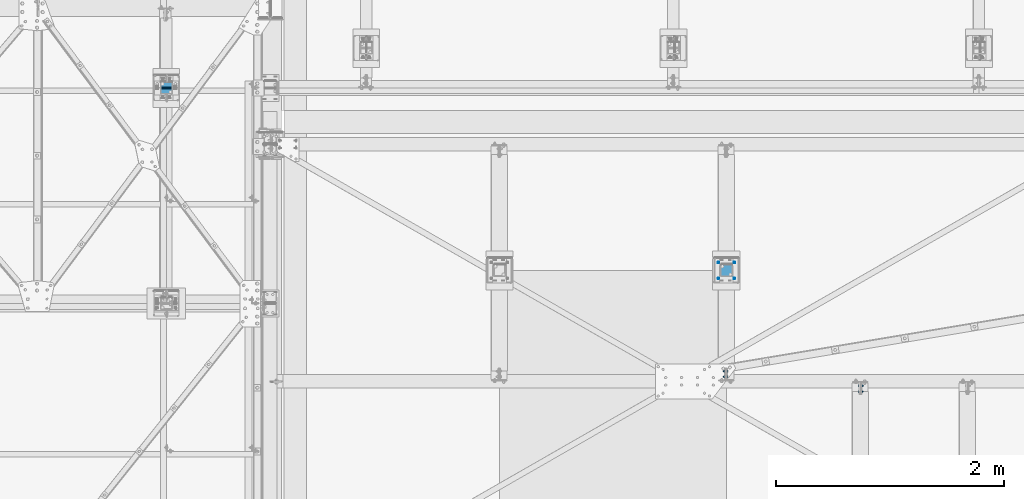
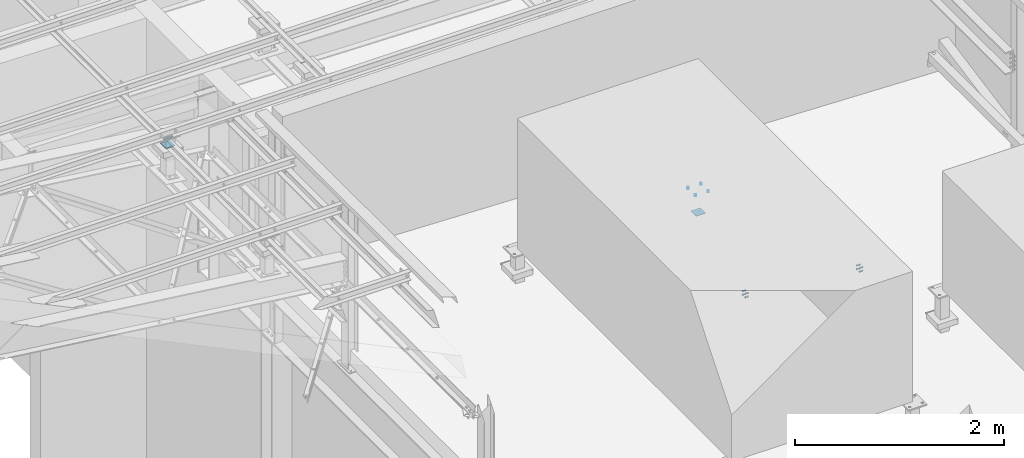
# One storey, part 385 of 3134: 6 mechanical fasteners, 4 elements without a shape of their own.
"""IFC2X3 building model written with IfcOpenShell, lengths in millimetres."""

from ifc_helpers import new_model, si_unit, frame, origin_with_axes, place, context, subcontext, project, spatial, faceted_brep, source, transform, mapped, material, type_object, element, aggregate, save


model = new_model("IFC2X3")

# Units and contexts
model_context = context("Model", 3, precision=1e-05, world=origin_with_axes())
body_context = subcontext(model_context, "Body", "Model", "MODEL_VIEW")
ifc_project = project(units=[si_unit("LENGTHUNIT", "METRE", prefix="MILLI"), si_unit("AREAUNIT", "SQUARE_METRE"), si_unit("VOLUMEUNIT", "CUBIC_METRE"), si_unit("MASSUNIT", "GRAM", prefix="KILO"), si_unit("TIMEUNIT", "SECOND"), si_unit("PLANEANGLEUNIT", "RADIAN"), si_unit("SOLIDANGLEUNIT", "STERADIAN"), si_unit("THERMODYNAMICTEMPERATUREUNIT", "DEGREE_CELSIUS"), si_unit("LUMINOUSINTENSITYUNIT", "LUMEN")], contexts=[model_context])

# Site, building, storey
site_placement = place(None, origin_with_axes())
site = spatial("IfcSite", under=ifc_project, at=site_placement, CompositionType="ELEMENT")
building_placement = place(site_placement, origin_with_axes())
building = spatial("IfcBuilding", under=site, at=building_placement, Name="Undefined", CompositionType="ELEMENT")
storey_placement = place(building_placement, origin_with_axes())
storey = spatial("IfcBuildingStorey", under=building, at=storey_placement, Name="Undefined", CompositionType="ELEMENT", Elevation=0.0)

# Assembly, mechanical fastener
assembly_1_placement = place(storey_placement, origin_with_axes())
assembly_1 = element("IfcElementAssembly", 1, at=assembly_1_placement, inside=storey, AssemblyPlace="NOTDEFINED", PredefinedType="RIGID_FRAME")
ifc_material_1 = material(Name="8.8")
mechanical_fastener_type = type_object("IfcMechanicalFastenerType", Name="Bolt assembly")
shared_shape_1 = source(origin_with_axes(), body_context, "Body", "Brep", [
    faceted_brep([(9.0, -50.0, 0.0), (7.79422863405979, -50.0, 4.50000000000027), (4.49999999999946, -50.0, 7.79422863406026), (-9.3270238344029e-13, -50.0, 9.0), (-4.50000000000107, -50.0, 7.79422863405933), (-7.79422863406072, -50.0, 4.49999999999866), (-9.0, -50.0, -1.86540476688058e-12), (-7.79422863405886, -50.0, -4.50000000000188), (-4.49999999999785, -50.0, -7.79422863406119), (2.78811514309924e-12, -50.0, -9.0), (4.50000000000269, -50.0, -7.7942286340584), (7.79422863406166, -50.0, -4.49999999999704), (7.79422863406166, 50.1, -4.49999999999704), (4.50000000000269, 50.1, -7.7942286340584), (2.78811514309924e-12, 50.1, -9.0), (-4.49999999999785, 50.1, -7.79422863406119), (-7.79422863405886, 50.1, -4.50000000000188), (-9.0, 50.1, -1.86540476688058e-12), (-7.79422863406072, 50.1, 4.49999999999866), (-4.50000000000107, 50.1, 7.79422863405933), (-9.3270238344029e-13, 50.1, 9.0), (4.49999999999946, 50.1, 7.79422863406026), (7.79422863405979, 50.1, 4.50000000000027), (9.0, 50.1, 0.0)], [[[0, 1, 2, 3, 4, 5, 6, 7, 8, 9, 10, 11]], [[12, 13, 14, 15, 16, 17, 18, 19, 20, 21, 22, 23]], [[0, 23, 22, 1]], [[1, 22, 21, 2]], [[2, 21, 20, 3]], [[3, 20, 19, 4]], [[4, 19, 18, 5]], [[5, 18, 17, 6]], [[6, 17, 16, 7]], [[7, 16, 15, 8]], [[8, 15, 14, 9]], [[9, 14, 13, 10]], [[10, 13, 12, 11]], [[11, 12, 23, 0]]]),
])
mechanical_fastener_1_placement = place(assembly_1_placement, frame((70902.0, 26545.0, 5830.0), z_axis=(0.0, 1.0, 0.0), x_axis=(0.0, 0.0, 1.0)))
mechanical_fastener_1 = element("IfcMechanicalFastener", 2, at=mechanical_fastener_1_placement, type_object=mechanical_fastener_type, material=ifc_material_1, Name="Bolt assembly", NominalDiameter=16.0, NominalLength=100.0, context=body_context, shape_type="MappedRepresentation", body=[
    mapped(shared_shape_1, transform((0.0, 0.0, 0.0))),
])

assembly_2_placement = place(storey_placement, origin_with_axes())
assembly_2 = element("IfcElementAssembly", 3, at=assembly_2_placement, inside=storey, AssemblyPlace="NOTDEFINED", PredefinedType="RIGID_FRAME")
ifc_material_2 = material(Name="6.8")
shared_shape_2 = source(origin_with_axes(), body_context, "Body", "Brep", [
    faceted_brep([(51.5, 1.36424205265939e-12, 50.0), (51.3858192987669, 1.36424205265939e-12, 50.5740251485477), (51.0606601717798, 1.36424205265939e-12, 51.0606601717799), (50.5740251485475, 1.36424205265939e-12, 51.385819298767), (-50.0000000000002, 1.36424205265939e-12, 51.5), (-50.7500000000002, 1.36424205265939e-12, 51.2990381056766), (-51.2990381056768, 1.36424205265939e-12, 50.7499999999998), (-51.5, 1.36424205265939e-12, 49.9999999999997), (-51.5, 1.36424205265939e-12, -50.0000000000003), (-51.2990381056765, 1.36424205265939e-12, -50.7500000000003), (-50.7499999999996, 1.36424205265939e-12, -51.2990381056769), (-49.9999999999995, 1.36424205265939e-12, -51.5), (50.0000000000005, 1.36424205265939e-12, -51.5), (50.7500000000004, 1.36424205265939e-12, -51.2990381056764), (51.2990381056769, 1.36424205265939e-12, -50.7499999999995), (51.5, 1.36424205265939e-12, -49.9999999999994), (51.5, 5.10000000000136, -49.9999999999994), (51.2990381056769, 5.10000000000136, -50.7499999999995), (50.7500000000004, 5.10000000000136, -51.2990381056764), (50.0000000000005, 5.10000000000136, -51.5), (-49.9999999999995, 5.10000000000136, -51.5), (-50.7499999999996, 5.10000000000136, -51.2990381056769), (-51.2990381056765, 5.10000000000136, -50.7500000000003), (-51.5, 5.10000000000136, -50.0000000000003), (-51.5, 5.10000000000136, 49.9999999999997), (-51.2990381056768, 5.10000000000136, 50.7499999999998), (-50.7500000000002, 5.10000000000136, 51.2990381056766), (-50.0000000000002, 5.10000000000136, 51.5), (50.5740251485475, 5.10000000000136, 51.385819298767), (51.0606601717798, 5.10000000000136, 51.0606601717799), (51.3858192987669, 5.10000000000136, 50.5740251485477), (51.5, 5.10000000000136, 50.0)], [[[0, 1, 2, 3, 4, 5, 6, 7, 8, 9, 10, 11, 12, 13, 14, 15]], [[16, 17, 18, 19, 20, 21, 22, 23, 24, 25, 26, 27, 28, 29, 30, 31]], [[0, 31, 30, 1]], [[1, 30, 29, 2]], [[2, 29, 28, 3]], [[3, 28, 27, 4]], [[4, 27, 26, 5]], [[5, 26, 25, 6]], [[6, 25, 24, 7]], [[7, 24, 23, 8]], [[8, 23, 22, 9]], [[9, 22, 21, 10]], [[10, 21, 20, 11]], [[11, 20, 19, 12]], [[12, 19, 18, 13]], [[13, 18, 17, 14]], [[14, 17, 16, 15]], [[15, 16, 31, 0]]]),
])
mechanical_fastener_2_placement = place(assembly_2_placement, frame((75824.0, 24940.0, 4212.39), z_axis=(0.0, -1.0, 0.0), x_axis=(-1.0, 0.0, 0.0)))
mechanical_fastener_2 = element("IfcMechanicalFastener", 4, at=mechanical_fastener_2_placement, type_object=mechanical_fastener_type, material=ifc_material_2, Name="Bolt assembly", NominalDiameter=10.0, NominalLength=5.0, context=body_context, shape_type="MappedRepresentation", body=[
    mapped(shared_shape_2, transform((0.0, 0.0, 0.0))),
])

# Mechanical fastener
mechanical_fastener_3_placement = place(assembly_1_placement, frame((70902.0, 26545.0, 5750.0), z_axis=(0.0, -1.0, 0.0), x_axis=(-1.0, 0.0, 0.0)))
mechanical_fastener_3 = element("IfcMechanicalFastener", 5, at=mechanical_fastener_3_placement, type_object=mechanical_fastener_type, material=ifc_material_2, Name="Bolt assembly", NominalDiameter=10.0, NominalLength=5.0, context=body_context, shape_type="MappedRepresentation", body=[
    mapped(shared_shape_2, transform((0.0, 0.0, 0.0))),
])

aggregate(assembly_1, [mechanical_fastener_1, mechanical_fastener_3])

# Assembly, mechanical fastener
assembly_3_placement = place(storey_placement, origin_with_axes())
assembly_3 = element("IfcElementAssembly", 6, at=assembly_3_placement, inside=storey, AssemblyPlace="NOTDEFINED", PredefinedType="RIGID_FRAME")
shared_shape_3 = source(origin_with_axes(), body_context, "Body", "Brep", [
    faceted_brep([(10.9696551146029, -19.2575524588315, 0.0), (5.48482755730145, -19.2575524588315, 9.5), (-5.48482755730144, -19.2575524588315, 9.5), (-10.9696551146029, -19.2575524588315, 1.34339530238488e-15), (-5.48482755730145, -19.2575524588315, -9.5), (5.48482755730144, -19.2575524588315, -9.50000000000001), (5.48482755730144, -11.2575524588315, -9.50000000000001), (-5.48482755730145, -11.2575524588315, -9.5), (-10.9696551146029, -11.2575524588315, 1.34339530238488e-15), (-5.48482755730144, -11.2575524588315, 9.5), (5.48482755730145, -11.2575524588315, 9.5), (10.9696551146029, -11.2575524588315, 0.0), (6.0, -11.2575524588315, 0.0), (5.19615242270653, -11.2575524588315, 3.00000000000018), (2.99999999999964, -11.2575524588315, 5.19615242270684), (-6.21801588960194e-13, -11.2575524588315, 6.0), (-3.00000000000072, -11.2575524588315, 5.19615242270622), (-5.19615242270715, -11.2575524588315, 2.9999999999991), (-6.0, -11.2575524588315, -1.24360317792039e-12), (-5.19615242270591, -11.2575524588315, -3.00000000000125), (-2.99999999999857, -11.2575524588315, -5.19615242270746), (1.85874342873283e-12, -11.2575524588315, -6.0), (3.00000000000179, -11.2575524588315, -5.1961524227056), (5.19615242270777, -11.2575524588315, -2.99999999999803), (5.19615242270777, 23.7424475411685, -2.99999999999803), (3.00000000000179, 23.7424475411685, -5.1961524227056), (1.85874342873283e-12, 23.7424475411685, -6.0), (-2.99999999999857, 23.7424475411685, -5.19615242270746), (-5.19615242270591, 23.7424475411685, -3.00000000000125), (-6.0, 23.7424475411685, -1.24360317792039e-12), (-5.19615242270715, 23.7424475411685, 2.9999999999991), (-3.00000000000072, 23.7424475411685, 5.19615242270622), (-6.21801588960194e-13, 23.7424475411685, 6.0), (2.99999999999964, 23.7424475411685, 5.19615242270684), (5.19615242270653, 23.7424475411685, 3.00000000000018), (6.0, 23.7424475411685, 0.0), (10.9696551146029, 6.25018760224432, 0.0), (5.48482755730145, 6.25018760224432, 9.5), (-5.48482755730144, 6.25018760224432, 9.5), (-10.9696551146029, 6.25018760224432, 1.34339530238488e-15), (-5.48482755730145, 6.25018760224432, -9.5), (5.48482755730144, 6.25018760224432, -9.50000000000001), (5.48482755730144, 16.2501876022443, -9.50000000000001), (-5.48482755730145, 16.2501876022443, -9.5), (-10.9696551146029, 16.2501876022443, 1.34339530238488e-15), (-5.48482755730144, 16.2501876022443, 9.5), (5.48482755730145, 16.2501876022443, 9.5), (10.9696551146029, 16.2501876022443, 0.0)], [[[0, 1, 2, 3, 4, 5]], [[6, 7, 8, 9, 10, 11]], [[0, 11, 10, 1]], [[1, 10, 9, 2]], [[2, 9, 8, 3]], [[3, 8, 7, 4]], [[4, 7, 6, 5]], [[5, 6, 11, 0]], [[12, 13, 14, 15, 16, 17, 18, 19, 20, 21, 22, 23]], [[24, 25, 26, 27, 28, 29, 30, 31, 32, 33, 34, 35]], [[12, 35, 34, 13]], [[13, 34, 33, 14]], [[14, 33, 32, 15]], [[15, 32, 31, 16]], [[16, 31, 30, 17]], [[17, 30, 29, 18]], [[18, 29, 28, 19]], [[19, 28, 27, 20]], [[20, 27, 26, 21]], [[21, 26, 25, 22]], [[22, 25, 24, 23]], [[23, 24, 35, 12]], [[36, 37, 38, 39, 40, 41]], [[42, 43, 44, 45, 46, 47]], [[36, 47, 46, 37]], [[37, 46, 45, 38]], [[38, 45, 44, 39]], [[39, 44, 43, 40]], [[40, 43, 42, 41]], [[41, 42, 47, 36]]]),
    faceted_brep([(7.0, -11.1575524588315, 0.0), (6.06217782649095, -11.1575524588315, 3.50000000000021), (3.49999999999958, -11.1575524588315, 6.06217782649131), (-7.25435187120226e-13, -11.1575524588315, 7.0), (-3.50000000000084, -11.1575524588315, 6.06217782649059), (-6.06217782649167, -11.1575524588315, 3.49999999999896), (-7.0, -11.1575524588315, -1.45087037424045e-12), (-6.06217782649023, -11.1575524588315, -3.50000000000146), (-3.49999999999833, -11.1575524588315, -6.06217782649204), (2.1685340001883e-12, -11.1575524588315, -7.0), (3.50000000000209, -11.1575524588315, -6.06217782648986), (6.0621778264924, -11.1575524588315, -3.4999999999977), (6.0621778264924, -5.15755245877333, -3.4999999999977), (3.50000000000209, -5.15755245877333, -6.06217782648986), (2.1685340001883e-12, -5.15755245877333, -7.0), (-3.49999999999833, -5.15755245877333, -6.06217782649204), (-6.06217782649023, -5.15755245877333, -3.50000000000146), (-7.0, -5.15755245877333, -1.45087037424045e-12), (-6.06217782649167, -5.15755245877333, 3.49999999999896), (-3.50000000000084, -5.15755245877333, 6.06217782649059), (-7.25435187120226e-13, -5.15755245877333, 7.0), (3.49999999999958, -5.15755245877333, 6.06217782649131), (6.06217782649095, -5.15755245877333, 3.50000000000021), (7.0, -5.15755245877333, 0.0), (7.0, 0.150187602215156, 0.0), (6.06217782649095, 0.150187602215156, 3.50000000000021), (3.49999999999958, 0.150187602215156, 6.06217782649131), (-7.25435187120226e-13, 0.150187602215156, 7.0), (-3.50000000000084, 0.150187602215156, 6.06217782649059), (-6.06217782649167, 0.150187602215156, 3.49999999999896), (-7.0, 0.150187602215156, -1.45087037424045e-12), (-6.06217782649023, 0.150187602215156, -3.50000000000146), (-3.49999999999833, 0.150187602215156, -6.06217782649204), (2.1685340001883e-12, 0.150187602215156, -7.0), (3.50000000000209, 0.150187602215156, -6.06217782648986), (6.0621778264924, 0.150187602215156, -3.4999999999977), (6.0621778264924, 6.25018760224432, -3.4999999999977), (3.50000000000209, 6.25018760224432, -6.06217782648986), (2.1685340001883e-12, 6.25018760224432, -7.0), (-3.49999999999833, 6.25018760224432, -6.06217782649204), (-6.06217782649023, 6.25018760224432, -3.50000000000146), (-7.0, 6.25018760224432, -1.45087037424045e-12), (-6.06217782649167, 6.25018760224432, 3.49999999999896), (-3.50000000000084, 6.25018760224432, 6.06217782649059), (-7.25435187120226e-13, 6.25018760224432, 7.0), (3.49999999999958, 6.25018760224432, 6.06217782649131), (6.06217782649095, 6.25018760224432, 3.50000000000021), (7.0, 6.25018760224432, 0.0), (7.0, -5.25082704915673, 0.0), (6.06217782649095, -5.25082704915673, 3.50000000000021), (3.49999999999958, -5.25082704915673, 6.06217782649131), (-7.25435187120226e-13, -5.25082704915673, 7.0), (-3.50000000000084, -5.25082704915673, 6.06217782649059), (-6.06217782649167, -5.25082704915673, 3.49999999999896), (-7.0, -5.25082704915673, -1.45087037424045e-12), (-6.06217782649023, -5.25082704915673, -3.50000000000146), (-3.49999999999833, -5.25082704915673, -6.06217782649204), (2.1685340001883e-12, -5.25082704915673, -7.0), (3.50000000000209, -5.25082704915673, -6.06217782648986), (6.0621778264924, -5.25082704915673, -3.4999999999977), (6.0621778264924, 0.249172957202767, -3.4999999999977), (3.50000000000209, 0.249172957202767, -6.06217782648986), (2.1685340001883e-12, 0.249172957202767, -7.0), (-3.49999999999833, 0.249172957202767, -6.06217782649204), (-6.06217782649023, 0.249172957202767, -3.50000000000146), (-7.0, 0.249172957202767, -1.45087037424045e-12), (-6.06217782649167, 0.249172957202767, 3.49999999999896), (-3.50000000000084, 0.249172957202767, 6.06217782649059), (-7.25435187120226e-13, 0.249172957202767, 7.0), (3.49999999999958, 0.249172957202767, 6.06217782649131), (6.06217782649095, 0.249172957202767, 3.50000000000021), (7.0, 0.249172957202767, 0.0)], [[[0, 1, 2, 3, 4, 5, 6, 7, 8, 9, 10, 11]], [[12, 13, 14, 15, 16, 17, 18, 19, 20, 21, 22, 23]], [[0, 23, 22, 1]], [[1, 22, 21, 2]], [[2, 21, 20, 3]], [[3, 20, 19, 4]], [[4, 19, 18, 5]], [[5, 18, 17, 6]], [[6, 17, 16, 7]], [[7, 16, 15, 8]], [[8, 15, 14, 9]], [[9, 14, 13, 10]], [[10, 13, 12, 11]], [[11, 12, 23, 0]], [[24, 25, 26, 27, 28, 29, 30, 31, 32, 33, 34, 35]], [[36, 37, 38, 39, 40, 41, 42, 43, 44, 45, 46, 47]], [[24, 47, 46, 25]], [[25, 46, 45, 26]], [[26, 45, 44, 27]], [[27, 44, 43, 28]], [[28, 43, 42, 29]], [[29, 42, 41, 30]], [[30, 41, 40, 31]], [[31, 40, 39, 32]], [[32, 39, 38, 33]], [[33, 38, 37, 34]], [[34, 37, 36, 35]], [[35, 36, 47, 24]], [[48, 49, 50, 51, 52, 53, 54, 55, 56, 57, 58, 59]], [[60, 61, 62, 63, 64, 65, 66, 67, 68, 69, 70, 71]], [[48, 71, 70, 49]], [[49, 70, 69, 50]], [[50, 69, 68, 51]], [[51, 68, 67, 52]], [[52, 67, 66, 53]], [[53, 66, 65, 54]], [[54, 65, 64, 55]], [[55, 64, 63, 56]], [[56, 63, 62, 57]], [[57, 62, 61, 58]], [[58, 61, 60, 59]], [[59, 60, 71, 48]]]),
])
mechanical_fastener_4_placement = place(assembly_3_placement, frame((77004.060807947, 23926.66, 3772.66212573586), z_axis=(0.0309396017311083, 0.0, 0.999521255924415), x_axis=(0.0, -1.0, 0.0)))
mechanical_fastener_4 = element("IfcMechanicalFastener", 7, at=mechanical_fastener_4_placement, type_object=mechanical_fastener_type, material=ifc_material_1, Name="Bolt assembly", NominalDiameter=12.0, NominalLength=35.0, context=body_context, shape_type="MappedRepresentation", body=[
    mapped(shared_shape_3, transform((0.0, 0.0, -21.0))),
    mapped(shared_shape_3, transform((50.0, -1.01863406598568e-10, -20.9999999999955))),
    mapped(shared_shape_3, transform((0.0, 0.0, 21.0))),
    mapped(shared_shape_3, transform((50.0, 1.30967237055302e-10, 20.9999999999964))),
])
aggregate(assembly_3, [mechanical_fastener_4])

assembly_4_placement = place(storey_placement, origin_with_axes())
assembly_4 = element("IfcElementAssembly", 8, at=assembly_4_placement, inside=storey, AssemblyPlace="NOTDEFINED", PredefinedType="RIGID_FRAME")
shared_shape_4 = source(origin_with_axes(), body_context, "Body", "Brep", [
    faceted_brep([(10.9696551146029, -14.250187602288, 0.0), (5.48482755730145, -14.250187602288, 9.5), (-5.48482755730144, -14.250187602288, 9.5), (-10.9696551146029, -14.250187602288, 1.34339530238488e-15), (-5.48482755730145, -14.250187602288, -9.5), (5.48482755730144, -14.250187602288, -9.50000000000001), (5.48482755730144, -6.25018760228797, -9.50000000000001), (-5.48482755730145, -6.25018760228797, -9.5), (-10.9696551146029, -6.25018760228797, 1.34339530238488e-15), (-5.48482755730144, -6.25018760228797, 9.5), (5.48482755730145, -6.25018760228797, 9.5), (10.9696551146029, -6.25018760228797, 0.0), (6.0, -6.25018760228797, 0.0), (5.19615242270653, -6.25018760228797, 3.00000000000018), (2.99999999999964, -6.25018760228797, 5.19615242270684), (-6.21801588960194e-13, -6.25018760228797, 6.0), (-3.00000000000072, -6.25018760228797, 5.19615242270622), (-5.19615242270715, -6.25018760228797, 2.9999999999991), (-6.0, -6.25018760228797, -1.24360317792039e-12), (-5.19615242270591, -6.25018760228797, -3.00000000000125), (-2.99999999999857, -6.25018760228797, -5.19615242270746), (1.85874342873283e-12, -6.25018760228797, -6.0), (3.00000000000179, -6.25018760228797, -5.1961524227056), (5.19615242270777, -6.25018760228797, -2.99999999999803), (5.19615242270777, 28.749812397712, -2.99999999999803), (3.00000000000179, 28.749812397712, -5.1961524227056), (1.85874342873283e-12, 28.749812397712, -6.0), (-2.99999999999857, 28.749812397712, -5.19615242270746), (-5.19615242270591, 28.749812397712, -3.00000000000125), (-6.0, 28.749812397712, -1.24360317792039e-12), (-5.19615242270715, 28.749812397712, 2.9999999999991), (-3.00000000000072, 28.749812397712, 5.19615242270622), (-6.21801588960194e-13, 28.749812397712, 6.0), (2.99999999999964, 28.749812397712, 5.19615242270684), (5.19615242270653, 28.749812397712, 3.00000000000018), (6.0, 28.749812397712, 0.0), (10.9696551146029, 11.2575524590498, 0.0), (5.48482755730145, 11.2575524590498, 9.5), (-5.48482755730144, 11.2575524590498, 9.5), (-10.9696551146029, 11.2575524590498, 1.34339530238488e-15), (-5.48482755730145, 11.2575524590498, -9.5), (5.48482755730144, 11.2575524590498, -9.50000000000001), (5.48482755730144, 21.2575524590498, -9.50000000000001), (-5.48482755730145, 21.2575524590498, -9.5), (-10.9696551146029, 21.2575524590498, 1.34339530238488e-15), (-5.48482755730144, 21.2575524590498, 9.5), (5.48482755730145, 21.2575524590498, 9.5), (10.9696551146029, 21.2575524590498, 0.0)], [[[0, 1, 2, 3, 4, 5]], [[6, 7, 8, 9, 10, 11]], [[0, 11, 10, 1]], [[1, 10, 9, 2]], [[2, 9, 8, 3]], [[3, 8, 7, 4]], [[4, 7, 6, 5]], [[5, 6, 11, 0]], [[12, 13, 14, 15, 16, 17, 18, 19, 20, 21, 22, 23]], [[24, 25, 26, 27, 28, 29, 30, 31, 32, 33, 34, 35]], [[12, 35, 34, 13]], [[13, 34, 33, 14]], [[14, 33, 32, 15]], [[15, 32, 31, 16]], [[16, 31, 30, 17]], [[17, 30, 29, 18]], [[18, 29, 28, 19]], [[19, 28, 27, 20]], [[20, 27, 26, 21]], [[21, 26, 25, 22]], [[22, 25, 24, 23]], [[23, 24, 35, 12]], [[36, 37, 38, 39, 40, 41]], [[42, 43, 44, 45, 46, 47]], [[36, 47, 46, 37]], [[37, 46, 45, 38]], [[38, 45, 44, 39]], [[39, 44, 43, 40]], [[40, 43, 42, 41]], [[41, 42, 47, 36]]]),
    faceted_brep([(7.0, 5.15755245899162, 0.0), (6.06217782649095, 5.15755245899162, 3.50000000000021), (3.49999999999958, 5.15755245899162, 6.06217782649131), (-7.25435187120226e-13, 5.15755245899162, 7.0), (-3.50000000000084, 5.15755245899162, 6.06217782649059), (-6.06217782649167, 5.15755245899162, 3.49999999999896), (-7.0, 5.15755245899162, -1.45087037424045e-12), (-6.06217782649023, 5.15755245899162, -3.50000000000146), (-3.49999999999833, 5.15755245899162, -6.06217782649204), (2.1685340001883e-12, 5.15755245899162, -7.0), (3.50000000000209, 5.15755245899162, -6.06217782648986), (6.0621778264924, 5.15755245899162, -3.4999999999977), (6.0621778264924, 11.2575524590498, -3.4999999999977), (3.50000000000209, 11.2575524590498, -6.06217782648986), (2.1685340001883e-12, 11.2575524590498, -7.0), (-3.49999999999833, 11.2575524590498, -6.06217782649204), (-6.06217782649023, 11.2575524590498, -3.50000000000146), (-7.0, 11.2575524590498, -1.45087037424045e-12), (-6.06217782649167, 11.2575524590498, 3.49999999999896), (-3.50000000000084, 11.2575524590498, 6.06217782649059), (-7.25435187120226e-13, 11.2575524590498, 7.0), (3.49999999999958, 11.2575524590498, 6.06217782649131), (6.06217782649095, 11.2575524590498, 3.50000000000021), (7.0, 11.2575524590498, 0.0), (7.0, -6.15018760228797, 0.0), (6.06217782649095, -6.15018760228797, 3.50000000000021), (3.49999999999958, -6.15018760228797, 6.06217782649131), (-7.25435187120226e-13, -6.15018760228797, 7.0), (-3.50000000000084, -6.15018760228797, 6.06217782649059), (-6.06217782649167, -6.15018760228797, 3.49999999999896), (-7.0, -6.15018760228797, -1.45087037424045e-12), (-6.06217782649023, -6.15018760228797, -3.50000000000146), (-3.49999999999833, -6.15018760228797, -6.06217782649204), (2.1685340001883e-12, -6.15018760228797, -7.0), (3.50000000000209, -6.15018760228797, -6.06217782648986), (6.0621778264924, -6.15018760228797, -3.4999999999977), (6.0621778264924, -0.150187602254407, -3.4999999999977), (3.50000000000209, -0.150187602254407, -6.06217782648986), (2.1685340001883e-12, -0.150187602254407, -7.0), (-3.49999999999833, -0.150187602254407, -6.06217782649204), (-6.06217782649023, -0.150187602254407, -3.50000000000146), (-7.0, -0.150187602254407, -1.45087037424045e-12), (-6.06217782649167, -0.150187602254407, 3.49999999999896), (-3.50000000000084, -0.150187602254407, 6.06217782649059), (-7.25435187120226e-13, -0.150187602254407, 7.0), (3.49999999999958, -0.150187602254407, 6.06217782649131), (6.06217782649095, -0.150187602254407, 3.50000000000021), (7.0, -0.150187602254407, 0.0), (7.0, -0.247625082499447, 0.0), (6.06217782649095, -0.247625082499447, 3.50000000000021), (3.49999999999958, -0.247625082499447, 6.06217782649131), (-7.25435187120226e-13, -0.247625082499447, 7.0), (-3.50000000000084, -0.247625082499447, 6.06217782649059), (-6.06217782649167, -0.247625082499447, 3.49999999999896), (-7.0, -0.247625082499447, -1.45087037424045e-12), (-6.06217782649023, -0.247625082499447, -3.50000000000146), (-3.49999999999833, -0.247625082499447, -6.06217782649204), (2.1685340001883e-12, -0.247625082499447, -7.0), (3.50000000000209, -0.247625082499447, -6.06217782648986), (6.0621778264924, -0.247625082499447, -3.4999999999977), (6.0621778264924, 5.25237492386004, -3.4999999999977), (3.50000000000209, 5.25237492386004, -6.06217782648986), (2.1685340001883e-12, 5.25237492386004, -7.0), (-3.49999999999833, 5.25237492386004, -6.06217782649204), (-6.06217782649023, 5.25237492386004, -3.50000000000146), (-7.0, 5.25237492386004, -1.45087037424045e-12), (-6.06217782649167, 5.25237492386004, 3.49999999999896), (-3.50000000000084, 5.25237492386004, 6.06217782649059), (-7.25435187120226e-13, 5.25237492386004, 7.0), (3.49999999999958, 5.25237492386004, 6.06217782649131), (6.06217782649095, 5.25237492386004, 3.50000000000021), (7.0, 5.25237492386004, 0.0)], [[[0, 1, 2, 3, 4, 5, 6, 7, 8, 9, 10, 11]], [[12, 13, 14, 15, 16, 17, 18, 19, 20, 21, 22, 23]], [[0, 23, 22, 1]], [[1, 22, 21, 2]], [[2, 21, 20, 3]], [[3, 20, 19, 4]], [[4, 19, 18, 5]], [[5, 18, 17, 6]], [[6, 17, 16, 7]], [[7, 16, 15, 8]], [[8, 15, 14, 9]], [[9, 14, 13, 10]], [[10, 13, 12, 11]], [[11, 12, 23, 0]], [[24, 25, 26, 27, 28, 29, 30, 31, 32, 33, 34, 35]], [[36, 37, 38, 39, 40, 41, 42, 43, 44, 45, 46, 47]], [[24, 47, 46, 25]], [[25, 46, 45, 26]], [[26, 45, 44, 27]], [[27, 44, 43, 28]], [[28, 43, 42, 29]], [[29, 42, 41, 30]], [[30, 41, 40, 31]], [[31, 40, 39, 32]], [[32, 39, 38, 33]], [[33, 38, 37, 34]], [[34, 37, 36, 35]], [[35, 36, 47, 24]], [[48, 49, 50, 51, 52, 53, 54, 55, 56, 57, 58, 59]], [[60, 61, 62, 63, 64, 65, 66, 67, 68, 69, 70, 71]], [[48, 71, 70, 49]], [[49, 70, 69, 50]], [[50, 69, 68, 51]], [[51, 68, 67, 52]], [[52, 67, 66, 53]], [[53, 66, 65, 54]], [[54, 65, 64, 55]], [[55, 64, 63, 56]], [[56, 63, 62, 57]], [[57, 62, 61, 58]], [[58, 61, 60, 59]], [[59, 60, 71, 48]]]),
])
mechanical_fastener_5_placement = place(assembly_4_placement, frame((75824.0676006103, 24006.68, 3809.24004725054), z_axis=(0.0309396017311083, 0.0, 0.999521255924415), x_axis=(0.0, 1.0, 0.0)))
mechanical_fastener_5 = element("IfcMechanicalFastener", 9, at=mechanical_fastener_5_placement, type_object=mechanical_fastener_type, material=ifc_material_1, Name="Bolt assembly", NominalDiameter=12.0, NominalLength=35.0, context=body_context, shape_type="MappedRepresentation", body=[
    mapped(shared_shape_4, transform((0.0, 0.0, -21.0))),
    mapped(shared_shape_4, transform((50.0, -1.01863406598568e-10, -20.9999999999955))),
    mapped(shared_shape_4, transform((0.0, 0.0, 21.0))),
    mapped(shared_shape_4, transform((50.0, 1.30967237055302e-10, 20.9999999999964))),
])
aggregate(assembly_4, [mechanical_fastener_5])

# Mechanical fastener
shared_shape_5 = source(origin_with_axes(), body_context, "Body", "Brep", [
    faceted_brep([(7.0, -4.90000000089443, 0.0), (6.06217782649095, -4.90000000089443, 3.50000000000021), (3.49999999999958, -4.90000000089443, 6.06217782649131), (-7.25435187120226e-13, -4.90000000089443, 7.0), (-3.50000000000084, -4.90000000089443, 6.06217782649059), (-6.06217782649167, -4.90000000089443, 3.49999999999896), (-7.0, -4.90000000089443, -1.45087037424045e-12), (-6.06217782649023, -4.90000000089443, -3.50000000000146), (-3.49999999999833, -4.90000000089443, -6.06217782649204), (2.1685340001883e-12, -4.90000000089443, -7.0), (3.50000000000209, -4.90000000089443, -6.06217782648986), (6.0621778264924, -4.90000000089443, -3.4999999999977), (6.0621778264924, 0.0999999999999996, -3.4999999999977), (3.50000000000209, 0.0999999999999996, -6.06217782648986), (2.1685340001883e-12, 0.0999999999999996, -7.0), (-3.49999999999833, 0.0999999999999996, -6.06217782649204), (-6.06217782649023, 0.0999999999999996, -3.50000000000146), (-7.0, 0.0999999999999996, -1.45087037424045e-12), (-6.06217782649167, 0.0999999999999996, 3.49999999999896), (-3.50000000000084, 0.0999999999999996, 6.06217782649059), (-7.25435187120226e-13, 0.0999999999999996, 7.0), (3.49999999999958, 0.0999999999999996, 6.06217782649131), (6.06217782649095, 0.0999999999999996, 3.50000000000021), (7.0, 0.0999999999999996, 0.0), (7.0, -0.1, 0.0), (6.06217782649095, -0.1, 3.50000000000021), (3.49999999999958, -0.1, 6.06217782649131), (-7.25435187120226e-13, -0.1, 7.0), (-3.50000000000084, -0.1, 6.06217782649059), (-6.06217782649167, -0.1, 3.49999999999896), (-7.0, -0.1, -1.45087037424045e-12), (-6.06217782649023, -0.1, -3.50000000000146), (-3.49999999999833, -0.1, -6.06217782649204), (2.1685340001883e-12, -0.1, -7.0), (3.50000000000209, -0.1, -6.06217782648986), (6.0621778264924, -0.1, -3.4999999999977), (6.0621778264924, 10.0, -3.4999999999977), (3.50000000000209, 10.0, -6.06217782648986), (2.1685340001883e-12, 10.0, -7.0), (-3.49999999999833, 10.0, -6.06217782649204), (-6.06217782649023, 10.0, -3.50000000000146), (-7.0, 10.0, -1.45087037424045e-12), (-6.06217782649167, 10.0, 3.49999999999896), (-3.50000000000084, 10.0, 6.06217782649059), (-7.25435187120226e-13, 10.0, 7.0), (3.49999999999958, 10.0, 6.06217782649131), (6.06217782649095, 10.0, 3.50000000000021), (7.0, 10.0, 0.0)], [[[0, 1, 2, 3, 4, 5, 6, 7, 8, 9, 10, 11]], [[12, 13, 14, 15, 16, 17, 18, 19, 20, 21, 22, 23]], [[0, 23, 22, 1]], [[1, 22, 21, 2]], [[2, 21, 20, 3]], [[3, 20, 19, 4]], [[4, 19, 18, 5]], [[5, 18, 17, 6]], [[6, 17, 16, 7]], [[7, 16, 15, 8]], [[8, 15, 14, 9]], [[9, 14, 13, 10]], [[10, 13, 12, 11]], [[11, 12, 23, 0]], [[24, 25, 26, 27, 28, 29, 30, 31, 32, 33, 34, 35]], [[36, 37, 38, 39, 40, 41, 42, 43, 44, 45, 46, 47]], [[24, 47, 46, 25]], [[25, 46, 45, 26]], [[26, 45, 44, 27]], [[27, 44, 43, 28]], [[28, 43, 42, 29]], [[29, 42, 41, 30]], [[30, 41, 40, 31]], [[31, 40, 39, 32]], [[32, 39, 38, 33]], [[33, 38, 37, 34]], [[34, 37, 36, 35]], [[35, 36, 47, 24]]]),
])
mechanical_fastener_6_placement = place(assembly_2_placement, frame((75824.0, 24870.0, 4475.0), z_axis=(-1.0, 0.0, 0.0), x_axis=(0.0, 1.0, 0.0)))
mechanical_fastener_6 = element("IfcMechanicalFastener", 10, at=mechanical_fastener_6_placement, type_object=mechanical_fastener_type, material=ifc_material_1, Name="Bolt assembly", NominalDiameter=12.0, NominalLength=15.0, context=body_context, shape_type="MappedRepresentation", body=[
    mapped(shared_shape_5, transform((0.0, 0.0, -70.0))),
    mapped(shared_shape_5, transform((140.0, 0.0, -70.0))),
    mapped(shared_shape_5, transform((0.0, 0.0, 70.0))),
    mapped(shared_shape_5, transform((140.0, 0.0, 70.0))),
])

aggregate(assembly_2, [mechanical_fastener_2, mechanical_fastener_6])

save(model, "model.ifc")
